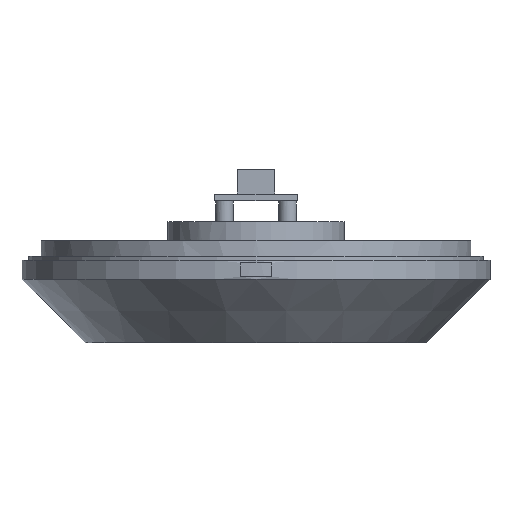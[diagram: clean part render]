
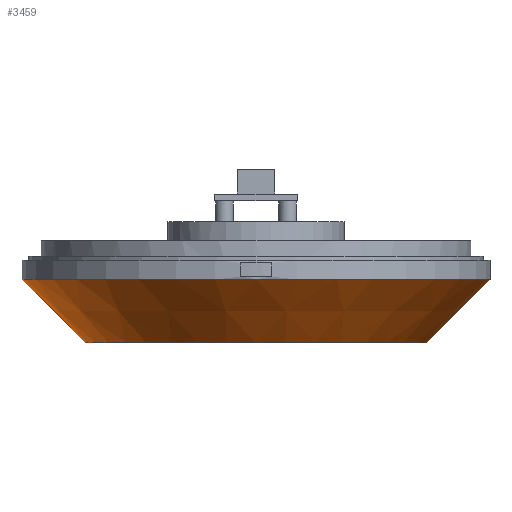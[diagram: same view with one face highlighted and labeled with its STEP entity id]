
A CAD part, left-side view. The second image highlights one B-rep face of the part: STEP entity #3459.
In plain terms, the highlighted conical face has half-angle 45 degrees and reference radius 62 mm.
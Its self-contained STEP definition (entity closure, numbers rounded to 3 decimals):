
#111 = PLANE('',#112);
#112 = AXIS2_PLACEMENT_3D('',#113,#114,#115);
#113 = CARTESIAN_POINT('',(0.,0.,60.));
#114 = DIRECTION('',(0.,0.,1.));
#115 = DIRECTION('',(1.,0.,-0.));
#3190 = CYLINDRICAL_SURFACE('',#3191,85.);
#3191 = AXIS2_PLACEMENT_3D('',#3192,#3193,#3194);
#3192 = CARTESIAN_POINT('',(0.,0.,83.));
#3193 = DIRECTION('',(0.,0.,1.));
#3194 = DIRECTION('',(1.,0.,-0.));
#3233 = VERTEX_POINT('',#3234);
#3234 = CARTESIAN_POINT('',(85.,0.,83.));
#3257 = EDGE_CURVE('',#3233,#3233,#3258,.T.);
#3258 = SURFACE_CURVE('',#3259,(#3264,#3271),.PCURVE_S1.);
#3259 = CIRCLE('',#3260,85.);
#3260 = AXIS2_PLACEMENT_3D('',#3261,#3262,#3263);
#3261 = CARTESIAN_POINT('',(0.,0.,83.));
#3262 = DIRECTION('',(0.,0.,1.));
#3263 = DIRECTION('',(1.,0.,-0.));
#3264 = PCURVE('',#3190,#3265);
#3265 = DEFINITIONAL_REPRESENTATION('',(#3266),#3270);
#3266 = LINE('',#3267,#3268);
#3267 = CARTESIAN_POINT('',(0.,0.));
#3268 = VECTOR('',#3269,1.);
#3269 = DIRECTION('',(1.,0.));
#3270 = ( GEOMETRIC_REPRESENTATION_CONTEXT(2) 
PARAMETRIC_REPRESENTATION_CONTEXT() REPRESENTATION_CONTEXT('2D SPACE',''
  ) );
#3271 = PCURVE('',#3272,#3277);
#3272 = CONICAL_SURFACE('',#3273,62.,0.785);
#3273 = AXIS2_PLACEMENT_3D('',#3274,#3275,#3276);
#3274 = CARTESIAN_POINT('',(0.,0.,60.));
#3275 = DIRECTION('',(0.,0.,1.));
#3276 = DIRECTION('',(1.,0.,-0.));
#3277 = DEFINITIONAL_REPRESENTATION('',(#3278),#3282);
#3278 = LINE('',#3279,#3280);
#3279 = CARTESIAN_POINT('',(0.,23.));
#3280 = VECTOR('',#3281,1.);
#3281 = DIRECTION('',(1.,0.));
#3282 = ( GEOMETRIC_REPRESENTATION_CONTEXT(2) 
PARAMETRIC_REPRESENTATION_CONTEXT() REPRESENTATION_CONTEXT('2D SPACE',''
  ) );
#3459 = ADVANCED_FACE('',(#3460),#3272,.T.);
#3460 = FACE_BOUND('',#3461,.T.);
#3461 = EDGE_LOOP('',(#3462,#3486,#3507,#3508));
#3462 = ORIENTED_EDGE('',*,*,#3463,.T.);
#3463 = EDGE_CURVE('',#3464,#3464,#3466,.T.);
#3464 = VERTEX_POINT('',#3465);
#3465 = CARTESIAN_POINT('',(62.,0.,60.));
#3466 = SURFACE_CURVE('',#3467,(#3472,#3479),.PCURVE_S1.);
#3467 = CIRCLE('',#3468,62.);
#3468 = AXIS2_PLACEMENT_3D('',#3469,#3470,#3471);
#3469 = CARTESIAN_POINT('',(0.,0.,60.));
#3470 = DIRECTION('',(0.,0.,1.));
#3471 = DIRECTION('',(1.,0.,-0.));
#3472 = PCURVE('',#3272,#3473);
#3473 = DEFINITIONAL_REPRESENTATION('',(#3474),#3478);
#3474 = LINE('',#3475,#3476);
#3475 = CARTESIAN_POINT('',(0.,0.));
#3476 = VECTOR('',#3477,1.);
#3477 = DIRECTION('',(1.,0.));
#3478 = ( GEOMETRIC_REPRESENTATION_CONTEXT(2) 
PARAMETRIC_REPRESENTATION_CONTEXT() REPRESENTATION_CONTEXT('2D SPACE',''
  ) );
#3479 = PCURVE('',#111,#3480);
#3480 = DEFINITIONAL_REPRESENTATION('',(#3481),#3485);
#3481 = CIRCLE('',#3482,62.);
#3482 = AXIS2_PLACEMENT_2D('',#3483,#3484);
#3483 = CARTESIAN_POINT('',(0.,0.));
#3484 = DIRECTION('',(1.,-0.));
#3485 = ( GEOMETRIC_REPRESENTATION_CONTEXT(2) 
PARAMETRIC_REPRESENTATION_CONTEXT() REPRESENTATION_CONTEXT('2D SPACE',''
  ) );
#3486 = ORIENTED_EDGE('',*,*,#3487,.T.);
#3487 = EDGE_CURVE('',#3464,#3233,#3488,.T.);
#3488 = SEAM_CURVE('',#3489,(#3493,#3500),.PCURVE_S1.);
#3489 = LINE('',#3490,#3491);
#3490 = CARTESIAN_POINT('',(62.,0.,60.));
#3491 = VECTOR('',#3492,1.);
#3492 = DIRECTION('',(0.707,0.,0.707));
#3493 = PCURVE('',#3272,#3494);
#3494 = DEFINITIONAL_REPRESENTATION('',(#3495),#3499);
#3495 = LINE('',#3496,#3497);
#3496 = CARTESIAN_POINT('',(6.283,0.));
#3497 = VECTOR('',#3498,1.);
#3498 = DIRECTION('',(0.,1.));
#3499 = ( GEOMETRIC_REPRESENTATION_CONTEXT(2) 
PARAMETRIC_REPRESENTATION_CONTEXT() REPRESENTATION_CONTEXT('2D SPACE',''
  ) );
#3500 = PCURVE('',#3272,#3501);
#3501 = DEFINITIONAL_REPRESENTATION('',(#3502),#3506);
#3502 = LINE('',#3503,#3504);
#3503 = CARTESIAN_POINT('',(0.,0.));
#3504 = VECTOR('',#3505,1.);
#3505 = DIRECTION('',(0.,1.));
#3506 = ( GEOMETRIC_REPRESENTATION_CONTEXT(2) 
PARAMETRIC_REPRESENTATION_CONTEXT() REPRESENTATION_CONTEXT('2D SPACE',''
  ) );
#3507 = ORIENTED_EDGE('',*,*,#3257,.F.);
#3508 = ORIENTED_EDGE('',*,*,#3487,.F.);
